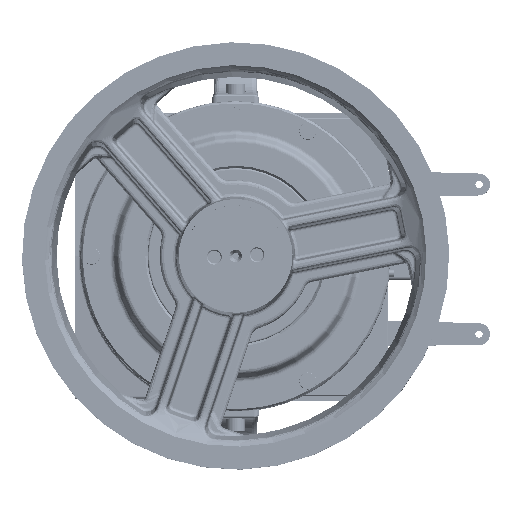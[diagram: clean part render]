
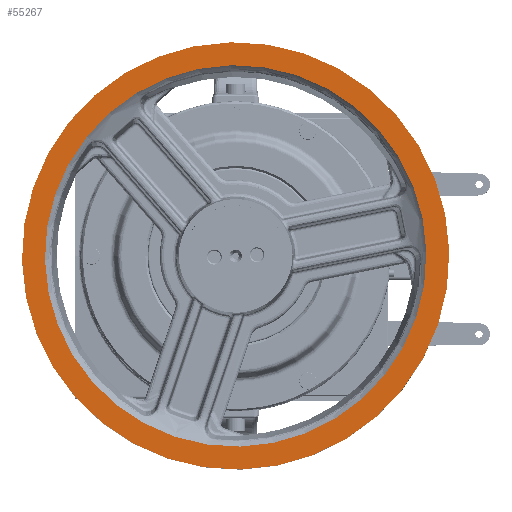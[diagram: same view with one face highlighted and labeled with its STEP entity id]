
A CAD part, top view. The second image highlights one B-rep face of the part: STEP entity #55267.
In plain terms, the highlighted planar face has unit normal (0, 0, 1).
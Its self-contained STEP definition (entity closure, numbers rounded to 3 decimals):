
#524 = DIRECTION ( 'NONE',  ( 0.32, 0.947, 0. ) ) ;
#5433 = CARTESIAN_POINT ( 'NONE',  ( -62.434, -169.625, 238.171 ) ) ;
#10251 = DIRECTION ( 'NONE',  ( 0., 0., 1. ) ) ;
#11468 = FACE_BOUND ( 'NONE', #22316, .T. ) ;
#19601 = VERTEX_POINT ( 'NONE', #134057 ) ;
#20192 = AXIS2_PLACEMENT_3D ( 'NONE', #38397, #36757, #524 ) ;
#22316 = EDGE_LOOP ( 'NONE', ( #122390, #58436 ) ) ;
#23690 = DIRECTION ( 'NONE',  ( 0.32, 0.947, 0. ) ) ;
#27263 = EDGE_LOOP ( 'NONE', ( #133626, #54883 ) ) ;
#27808 = AXIS2_PLACEMENT_3D ( 'NONE', #87737, #10251, #23690 ) ;
#27831 = DIRECTION ( 'NONE',  ( 0., 0., -1. ) ) ;
#32936 = VERTEX_POINT ( 'NONE', #5433 ) ;
#36757 = DIRECTION ( 'NONE',  ( 0., 0., 1. ) ) ;
#38397 = CARTESIAN_POINT ( 'NONE',  ( -5.265, -0.517, 238.171 ) ) ;
#44145 = DIRECTION ( 'NONE',  ( 0., 0., 1. ) ) ;
#45079 = DIRECTION ( 'NONE',  ( 0.32, 0.947, 0. ) ) ;
#46006 = CIRCLE ( 'NONE', #86293, 178.511 ) ;
#49124 = CARTESIAN_POINT ( 'NONE',  ( -69.316, -189.983, 238.171 ) ) ;
#54883 = ORIENTED_EDGE ( 'NONE', *, *, #87005, .T. ) ;
#55128 = CARTESIAN_POINT ( 'NONE',  ( -5.265, -0.517, 238.171 ) ) ;
#55267 = ADVANCED_FACE ( 'NONE', ( #126893, #11468 ), #139478, .T. ) ;
#57725 = CARTESIAN_POINT ( 'NONE',  ( -5.265, -0.517, 238.171 ) ) ;
#58436 = ORIENTED_EDGE ( 'NONE', *, *, #83644, .T. ) ;
#67961 = AXIS2_PLACEMENT_3D ( 'NONE', #57725, #70354, #45079 ) ;
#70354 = DIRECTION ( 'NONE',  ( 0., 0., -1. ) ) ;
#83644 = EDGE_CURVE ( 'NONE', #19601, #32936, #46006, .T. ) ;
#86293 = AXIS2_PLACEMENT_3D ( 'NONE', #114700, #27831, #90211 ) ;
#87005 = EDGE_CURVE ( 'NONE', #139895, #103477, #159589, .T. ) ;
#87737 = CARTESIAN_POINT ( 'NONE',  ( -5.265, -0.517, 238.171 ) ) ;
#90211 = DIRECTION ( 'NONE',  ( 0.32, 0.947, 0. ) ) ;
#103477 = VERTEX_POINT ( 'NONE', #49124 ) ;
#106282 = EDGE_CURVE ( 'NONE', #103477, #139895, #162895, .T. ) ;
#113711 = EDGE_CURVE ( 'NONE', #32936, #19601, #140587, .T. ) ;
#114700 = CARTESIAN_POINT ( 'NONE',  ( -5.265, -0.517, 238.171 ) ) ;
#122390 = ORIENTED_EDGE ( 'NONE', *, *, #113711, .T. ) ;
#123598 = CARTESIAN_POINT ( 'NONE',  ( 58.787, 188.949, 238.171 ) ) ;
#126893 = FACE_OUTER_BOUND ( 'NONE', #27263, .T. ) ;
#130920 = DIRECTION ( 'NONE',  ( 0.32, 0.947, 0. ) ) ;
#133626 = ORIENTED_EDGE ( 'NONE', *, *, #106282, .T. ) ;
#134057 = CARTESIAN_POINT ( 'NONE',  ( 51.905, 168.592, 238.171 ) ) ;
#139478 = PLANE ( 'NONE',  #20192 ) ;
#139895 = VERTEX_POINT ( 'NONE', #123598 ) ;
#140587 = CIRCLE ( 'NONE', #67961, 178.511 ) ;
#159589 = CIRCLE ( 'NONE', #27808, 200. ) ;
#162895 = CIRCLE ( 'NONE', #163004, 200. ) ;
#163004 = AXIS2_PLACEMENT_3D ( 'NONE', #55128, #44145, #130920 ) ;
